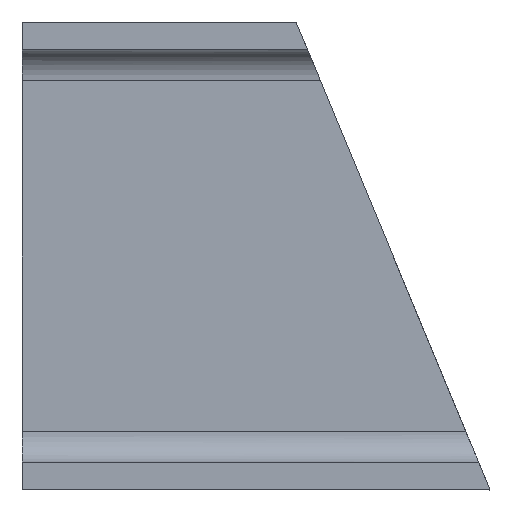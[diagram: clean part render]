
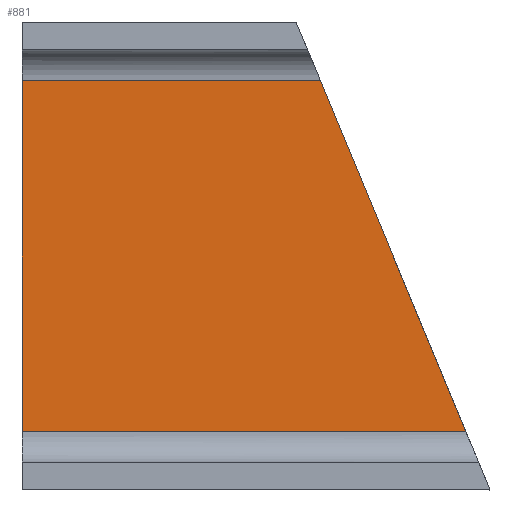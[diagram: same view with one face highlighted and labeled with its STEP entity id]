
A CAD part, front view. The second image highlights one B-rep face of the part: STEP entity #881.
In plain terms, the highlighted planar face has unit normal (0, -1, 0).
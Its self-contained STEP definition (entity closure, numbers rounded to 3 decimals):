
#232 = CARTESIAN_POINT ( 'NONE',  ( 11194.315, 3., -2255.565 ) ) ;
#259 = LINE ( 'NONE', #1292, #1970 ) ;
#298 = FACE_OUTER_BOUND ( 'NONE', #1873, .T. ) ;
#513 = DIRECTION ( 'NONE',  ( -0.383, 0., 0.924 ) ) ;
#525 = DIRECTION ( 'NONE',  ( -1., 0., 0. ) ) ;
#599 = EDGE_CURVE ( 'NONE', #1474, #1784, #2722, .T. ) ;
#738 = CARTESIAN_POINT ( 'NONE',  ( 11070., 3., -2367.5 ) ) ;
#881 = ADVANCED_FACE ( 'NONE', ( #298 ), #3394, .F. ) ;
#1001 = VERTEX_POINT ( 'NONE', #1234 ) ;
#1002 = ORIENTED_EDGE ( 'NONE', *, *, #2151, .T. ) ;
#1234 = CARTESIAN_POINT ( 'NONE',  ( 11240.68, 3., -2367.5 ) ) ;
#1243 = DIRECTION ( 'NONE',  ( -1., 0., 0. ) ) ;
#1249 = VECTOR ( 'NONE', #513, 1000. ) ;
#1268 = LINE ( 'NONE', #232, #1249 ) ;
#1292 = CARTESIAN_POINT ( 'NONE',  ( 11250., 3., -2367.5 ) ) ;
#1474 = VERTEX_POINT ( 'NONE', #738 ) ;
#1706 = EDGE_CURVE ( 'NONE', #1001, #1474, #259, .T. ) ;
#1784 = VERTEX_POINT ( 'NONE', #1966 ) ;
#1825 = CARTESIAN_POINT ( 'NONE',  ( 11250., 3., -2232.5 ) ) ;
#1847 = ORIENTED_EDGE ( 'NONE', *, *, #1848, .T. ) ;
#1848 = EDGE_CURVE ( 'NONE', #3122, #1784, #1997, .T. ) ;
#1855 = VECTOR ( 'NONE', #2739, 1000. ) ;
#1873 = EDGE_LOOP ( 'NONE', ( #1002, #1847, #3346, #2868 ) ) ;
#1927 = CARTESIAN_POINT ( 'NONE',  ( 11070., 3., -2232.5 ) ) ;
#1966 = CARTESIAN_POINT ( 'NONE',  ( 11070., 3., -2232.5 ) ) ;
#1970 = VECTOR ( 'NONE', #525, 1000. ) ;
#1997 = LINE ( 'NONE', #2263, #2282 ) ;
#2086 = DIRECTION ( 'NONE',  ( 0., 0., -1. ) ) ;
#2151 = EDGE_CURVE ( 'NONE', #1001, #3122, #1268, .T. ) ;
#2263 = CARTESIAN_POINT ( 'NONE',  ( 11250., 3., -2232.5 ) ) ;
#2282 = VECTOR ( 'NONE', #1243, 1000. ) ;
#2722 = LINE ( 'NONE', #1927, #1855 ) ;
#2739 = DIRECTION ( 'NONE',  ( 0., 0., 1. ) ) ;
#2861 = DIRECTION ( 'NONE',  ( 0., 1., 0. ) ) ;
#2868 = ORIENTED_EDGE ( 'NONE', *, *, #1706, .F. ) ;
#2882 = CARTESIAN_POINT ( 'NONE',  ( 11184.761, 3., -2232.5 ) ) ;
#2996 = AXIS2_PLACEMENT_3D ( 'NONE', #1825, #2861, #2086 ) ;
#3122 = VERTEX_POINT ( 'NONE', #2882 ) ;
#3346 = ORIENTED_EDGE ( 'NONE', *, *, #599, .F. ) ;
#3394 = PLANE ( 'NONE',  #2996 ) ;
